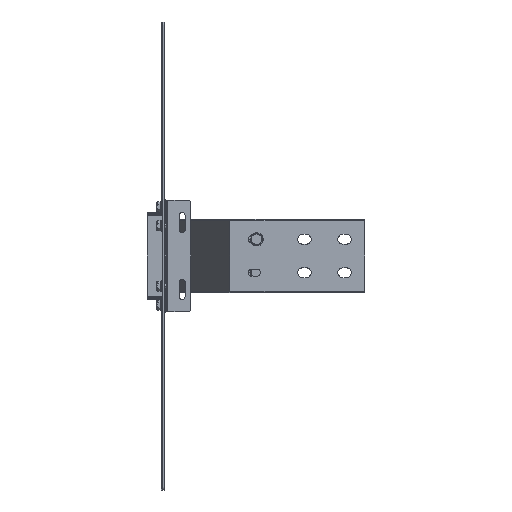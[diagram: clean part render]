
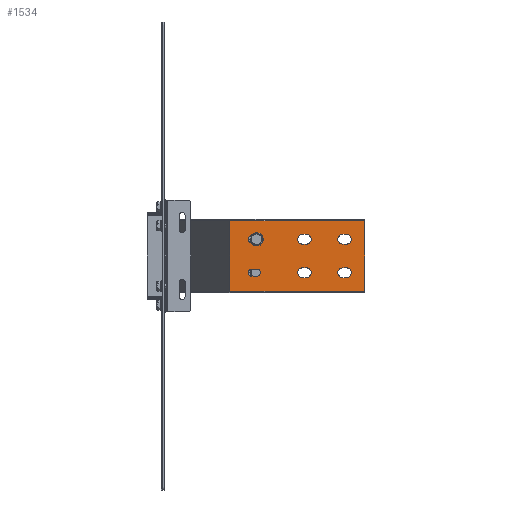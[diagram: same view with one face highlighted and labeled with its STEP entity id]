
A CAD part, front view. The second image highlights one B-rep face of the part: STEP entity #1534.
In plain terms, the highlighted planar face has unit normal (0, -1, 0).
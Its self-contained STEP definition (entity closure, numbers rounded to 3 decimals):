
#1290=AXIS2_PLACEMENT_3D('Circle Axis2P3D',#1288,#1289,$) ;
#1310=AXIS2_PLACEMENT_3D('Plane Axis2P3D',#1307,#1308,#1309) ;
#1348=AXIS2_PLACEMENT_3D('Circle Axis2P3D',#1346,#1347,$) ;
#1366=AXIS2_PLACEMENT_3D('Circle Axis2P3D',#1364,#1365,$) ;
#1382=AXIS2_PLACEMENT_3D('Circle Axis2P3D',#1380,#1381,$) ;
#1400=AXIS2_PLACEMENT_3D('Circle Axis2P3D',#1398,#1399,$) ;
#1416=AXIS2_PLACEMENT_3D('Circle Axis2P3D',#1414,#1415,$) ;
#1443=AXIS2_PLACEMENT_3D('Circle Axis2P3D',#1441,#1442,$) ;
#1457=AXIS2_PLACEMENT_3D('Circle Axis2P3D',#1455,#1456,$) ;
#1468=AXIS2_PLACEMENT_3D('Circle Axis2P3D',#1466,#1467,$) ;
#1484=AXIS2_PLACEMENT_3D('Circle Axis2P3D',#1482,#1483,$) ;
#1502=AXIS2_PLACEMENT_3D('Circle Axis2P3D',#1500,#1501,$) ;
#1518=AXIS2_PLACEMENT_3D('Circle Axis2P3D',#1516,#1517,$) ;
#1254=CARTESIAN_POINT('Vertex',(212.5,-217.625,32.5)) ;
#1257=CARTESIAN_POINT('Line Origine',(210.,-217.625,32.5)) ;
#1261=CARTESIAN_POINT('Vertex',(207.5,-217.625,32.5)) ;
#1288=CARTESIAN_POINT('Axis2P3D Location',(207.5,-217.625,25.)) ;
#1292=CARTESIAN_POINT('Vertex',(207.5,-217.625,17.5)) ;
#1307=CARTESIAN_POINT('Axis2P3D Location',(300.,-217.625,-52.375)) ;
#1312=CARTESIAN_POINT('Line Origine',(199.141,-217.625,-52.375)) ;
#1316=CARTESIAN_POINT('Vertex',(300.,-217.625,-52.375)) ;
#1318=CARTESIAN_POINT('Vertex',(98.282,-217.625,-52.375)) ;
#1321=CARTESIAN_POINT('Line Origine',(300.,-217.625,0.)) ;
#1325=CARTESIAN_POINT('Vertex',(300.,-217.625,52.375)) ;
#1328=CARTESIAN_POINT('Line Origine',(199.141,-217.625,52.375)) ;
#1332=CARTESIAN_POINT('Vertex',(98.282,-217.625,52.375)) ;
#1335=CARTESIAN_POINT('Line Origine',(98.282,-217.625,0.)) ;
#1346=CARTESIAN_POINT('Axis2P3D Location',(212.5,-217.625,25.)) ;
#1350=CARTESIAN_POINT('Vertex',(212.5,-217.625,17.5)) ;
#1353=CARTESIAN_POINT('Line Origine',(210.,-217.625,17.5)) ;
#1364=CARTESIAN_POINT('Axis2P3D Location',(272.5,-217.625,25.)) ;
#1368=CARTESIAN_POINT('Vertex',(272.5,-217.625,17.5)) ;
#1370=CARTESIAN_POINT('Vertex',(272.5,-217.625,32.5)) ;
#1373=CARTESIAN_POINT('Line Origine',(270.,-217.625,17.5)) ;
#1377=CARTESIAN_POINT('Vertex',(267.5,-217.625,17.5)) ;
#1380=CARTESIAN_POINT('Axis2P3D Location',(267.5,-217.625,25.)) ;
#1384=CARTESIAN_POINT('Vertex',(267.5,-217.625,32.5)) ;
#1387=CARTESIAN_POINT('Line Origine',(270.,-217.625,32.5)) ;
#1398=CARTESIAN_POINT('Axis2P3D Location',(207.5,-217.625,-25.)) ;
#1402=CARTESIAN_POINT('Vertex',(207.5,-217.625,-17.5)) ;
#1404=CARTESIAN_POINT('Vertex',(207.5,-217.625,-32.5)) ;
#1407=CARTESIAN_POINT('Line Origine',(210.,-217.625,-17.5)) ;
#1411=CARTESIAN_POINT('Vertex',(212.5,-217.625,-17.5)) ;
#1414=CARTESIAN_POINT('Axis2P3D Location',(212.5,-217.625,-25.)) ;
#1418=CARTESIAN_POINT('Vertex',(212.5,-217.625,-32.5)) ;
#1421=CARTESIAN_POINT('Line Origine',(210.,-217.625,-32.5)) ;
#1432=CARTESIAN_POINT('Line Origine',(270.,-217.625,-17.5)) ;
#1436=CARTESIAN_POINT('Vertex',(272.5,-217.625,-17.5)) ;
#1438=CARTESIAN_POINT('Vertex',(267.5,-217.625,-17.5)) ;
#1441=CARTESIAN_POINT('Axis2P3D Location',(272.5,-217.625,-25.)) ;
#1445=CARTESIAN_POINT('Vertex',(272.5,-217.625,-32.5)) ;
#1448=CARTESIAN_POINT('Line Origine',(270.,-217.625,-32.5)) ;
#1452=CARTESIAN_POINT('Vertex',(267.5,-217.625,-32.5)) ;
#1455=CARTESIAN_POINT('Axis2P3D Location',(267.5,-217.625,-25.)) ;
#1466=CARTESIAN_POINT('Axis2P3D Location',(138.5,-217.625,25.)) ;
#1470=CARTESIAN_POINT('Vertex',(138.5,-217.625,19.5)) ;
#1472=CARTESIAN_POINT('Vertex',(138.5,-217.625,30.5)) ;
#1475=CARTESIAN_POINT('Line Origine',(135.,-217.625,19.5)) ;
#1479=CARTESIAN_POINT('Vertex',(131.5,-217.625,19.5)) ;
#1482=CARTESIAN_POINT('Axis2P3D Location',(131.5,-217.625,25.)) ;
#1486=CARTESIAN_POINT('Vertex',(131.5,-217.625,30.5)) ;
#1489=CARTESIAN_POINT('Line Origine',(135.,-217.625,30.5)) ;
#1500=CARTESIAN_POINT('Axis2P3D Location',(131.5,-217.625,-25.)) ;
#1504=CARTESIAN_POINT('Vertex',(131.5,-217.625,-19.5)) ;
#1506=CARTESIAN_POINT('Vertex',(131.5,-217.625,-30.5)) ;
#1509=CARTESIAN_POINT('Line Origine',(135.,-217.625,-19.5)) ;
#1513=CARTESIAN_POINT('Vertex',(138.5,-217.625,-19.5)) ;
#1516=CARTESIAN_POINT('Axis2P3D Location',(138.5,-217.625,-25.)) ;
#1520=CARTESIAN_POINT('Vertex',(138.5,-217.625,-30.5)) ;
#1523=CARTESIAN_POINT('Line Origine',(135.,-217.625,-30.5)) ;
#1258=DIRECTION('Vector Direction',(1.,0.,0.)) ;
#1289=DIRECTION('Axis2P3D Direction',(0.,-1.,0.)) ;
#1308=DIRECTION('Axis2P3D Direction',(0.,-1.,0.)) ;
#1309=DIRECTION('Axis2P3D XDirection',(0.,0.,1.)) ;
#1313=DIRECTION('Vector Direction',(-1.,0.,0.)) ;
#1322=DIRECTION('Vector Direction',(0.,0.,1.)) ;
#1329=DIRECTION('Vector Direction',(-1.,0.,0.)) ;
#1336=DIRECTION('Vector Direction',(0.,0.,1.)) ;
#1347=DIRECTION('Axis2P3D Direction',(0.,-1.,0.)) ;
#1354=DIRECTION('Vector Direction',(-1.,0.,0.)) ;
#1365=DIRECTION('Axis2P3D Direction',(0.,-1.,0.)) ;
#1374=DIRECTION('Vector Direction',(1.,0.,0.)) ;
#1381=DIRECTION('Axis2P3D Direction',(0.,-1.,0.)) ;
#1388=DIRECTION('Vector Direction',(-1.,0.,0.)) ;
#1399=DIRECTION('Axis2P3D Direction',(0.,-1.,0.)) ;
#1408=DIRECTION('Vector Direction',(-1.,0.,0.)) ;
#1415=DIRECTION('Axis2P3D Direction',(0.,-1.,0.)) ;
#1422=DIRECTION('Vector Direction',(1.,0.,0.)) ;
#1433=DIRECTION('Vector Direction',(1.,0.,0.)) ;
#1442=DIRECTION('Axis2P3D Direction',(0.,-1.,0.)) ;
#1449=DIRECTION('Vector Direction',(-1.,0.,0.)) ;
#1456=DIRECTION('Axis2P3D Direction',(0.,-1.,0.)) ;
#1467=DIRECTION('Axis2P3D Direction',(0.,-1.,0.)) ;
#1476=DIRECTION('Vector Direction',(-1.,0.,0.)) ;
#1483=DIRECTION('Axis2P3D Direction',(0.,-1.,0.)) ;
#1490=DIRECTION('Vector Direction',(1.,0.,0.)) ;
#1501=DIRECTION('Axis2P3D Direction',(0.,-1.,0.)) ;
#1510=DIRECTION('Vector Direction',(-1.,0.,0.)) ;
#1517=DIRECTION('Axis2P3D Direction',(0.,-1.,0.)) ;
#1524=DIRECTION('Vector Direction',(1.,0.,0.)) ;
#1259=VECTOR('Line Direction',#1258,1.) ;
#1314=VECTOR('Line Direction',#1313,1.) ;
#1323=VECTOR('Line Direction',#1322,1.) ;
#1330=VECTOR('Line Direction',#1329,1.) ;
#1337=VECTOR('Line Direction',#1336,1.) ;
#1355=VECTOR('Line Direction',#1354,1.) ;
#1375=VECTOR('Line Direction',#1374,1.) ;
#1389=VECTOR('Line Direction',#1388,1.) ;
#1409=VECTOR('Line Direction',#1408,1.) ;
#1423=VECTOR('Line Direction',#1422,1.) ;
#1434=VECTOR('Line Direction',#1433,1.) ;
#1450=VECTOR('Line Direction',#1449,1.) ;
#1477=VECTOR('Line Direction',#1476,1.) ;
#1491=VECTOR('Line Direction',#1490,1.) ;
#1511=VECTOR('Line Direction',#1510,1.) ;
#1525=VECTOR('Line Direction',#1524,1.) ;
#1341=ORIENTED_EDGE('',*,*,#1320,.F.) ;
#1342=ORIENTED_EDGE('',*,*,#1327,.F.) ;
#1343=ORIENTED_EDGE('',*,*,#1334,.T.) ;
#1344=ORIENTED_EDGE('',*,*,#1339,.F.) ;
#1359=ORIENTED_EDGE('',*,*,#1352,.F.) ;
#1360=ORIENTED_EDGE('',*,*,#1357,.F.) ;
#1361=ORIENTED_EDGE('',*,*,#1294,.F.) ;
#1362=ORIENTED_EDGE('',*,*,#1263,.F.) ;
#1393=ORIENTED_EDGE('',*,*,#1372,.F.) ;
#1394=ORIENTED_EDGE('',*,*,#1379,.F.) ;
#1395=ORIENTED_EDGE('',*,*,#1386,.F.) ;
#1396=ORIENTED_EDGE('',*,*,#1391,.F.) ;
#1427=ORIENTED_EDGE('',*,*,#1406,.F.) ;
#1428=ORIENTED_EDGE('',*,*,#1413,.F.) ;
#1429=ORIENTED_EDGE('',*,*,#1420,.F.) ;
#1430=ORIENTED_EDGE('',*,*,#1425,.F.) ;
#1461=ORIENTED_EDGE('',*,*,#1440,.F.) ;
#1462=ORIENTED_EDGE('',*,*,#1447,.F.) ;
#1463=ORIENTED_EDGE('',*,*,#1454,.F.) ;
#1464=ORIENTED_EDGE('',*,*,#1459,.F.) ;
#1495=ORIENTED_EDGE('',*,*,#1474,.F.) ;
#1496=ORIENTED_EDGE('',*,*,#1481,.F.) ;
#1497=ORIENTED_EDGE('',*,*,#1488,.F.) ;
#1498=ORIENTED_EDGE('',*,*,#1493,.F.) ;
#1529=ORIENTED_EDGE('',*,*,#1508,.F.) ;
#1530=ORIENTED_EDGE('',*,*,#1515,.F.) ;
#1531=ORIENTED_EDGE('',*,*,#1522,.F.) ;
#1532=ORIENTED_EDGE('',*,*,#1527,.F.) ;
#1363=FACE_BOUND('',#1358,.T.) ;
#1397=FACE_BOUND('',#1392,.T.) ;
#1431=FACE_BOUND('',#1426,.T.) ;
#1465=FACE_BOUND('',#1460,.T.) ;
#1499=FACE_BOUND('',#1494,.T.) ;
#1533=FACE_BOUND('',#1528,.T.) ;
#1534=ADVANCED_FACE('N',(#1345,#1363,#1397,#1431,#1465,#1499,#1533),#1311,.T.) ;
#1291=CIRCLE('generated circle',#1290,7.5) ;
#1349=CIRCLE('generated circle',#1348,7.5) ;
#1367=CIRCLE('generated circle',#1366,7.5) ;
#1383=CIRCLE('generated circle',#1382,7.5) ;
#1401=CIRCLE('generated circle',#1400,7.5) ;
#1417=CIRCLE('generated circle',#1416,7.5) ;
#1444=CIRCLE('generated circle',#1443,7.5) ;
#1458=CIRCLE('generated circle',#1457,7.5) ;
#1469=CIRCLE('generated circle',#1468,5.5) ;
#1485=CIRCLE('generated circle',#1484,5.5) ;
#1503=CIRCLE('generated circle',#1502,5.5) ;
#1519=CIRCLE('generated circle',#1518,5.5) ;
#1263=EDGE_CURVE('',#1255,#1262,#1260,.F.) ;
#1294=EDGE_CURVE('',#1262,#1293,#1291,.T.) ;
#1320=EDGE_CURVE('',#1317,#1319,#1315,.T.) ;
#1327=EDGE_CURVE('',#1326,#1317,#1324,.F.) ;
#1334=EDGE_CURVE('',#1326,#1333,#1331,.T.) ;
#1339=EDGE_CURVE('',#1319,#1333,#1338,.T.) ;
#1352=EDGE_CURVE('',#1351,#1255,#1349,.T.) ;
#1357=EDGE_CURVE('',#1293,#1351,#1356,.F.) ;
#1372=EDGE_CURVE('',#1369,#1371,#1367,.T.) ;
#1379=EDGE_CURVE('',#1378,#1369,#1376,.T.) ;
#1386=EDGE_CURVE('',#1385,#1378,#1383,.T.) ;
#1391=EDGE_CURVE('',#1371,#1385,#1390,.T.) ;
#1406=EDGE_CURVE('',#1403,#1405,#1401,.T.) ;
#1413=EDGE_CURVE('',#1412,#1403,#1410,.T.) ;
#1420=EDGE_CURVE('',#1419,#1412,#1417,.T.) ;
#1425=EDGE_CURVE('',#1405,#1419,#1424,.T.) ;
#1440=EDGE_CURVE('',#1437,#1439,#1435,.F.) ;
#1447=EDGE_CURVE('',#1446,#1437,#1444,.T.) ;
#1454=EDGE_CURVE('',#1453,#1446,#1451,.F.) ;
#1459=EDGE_CURVE('',#1439,#1453,#1458,.T.) ;
#1474=EDGE_CURVE('',#1471,#1473,#1469,.T.) ;
#1481=EDGE_CURVE('',#1480,#1471,#1478,.F.) ;
#1488=EDGE_CURVE('',#1487,#1480,#1485,.T.) ;
#1493=EDGE_CURVE('',#1473,#1487,#1492,.F.) ;
#1508=EDGE_CURVE('',#1505,#1507,#1503,.T.) ;
#1515=EDGE_CURVE('',#1514,#1505,#1512,.T.) ;
#1522=EDGE_CURVE('',#1521,#1514,#1519,.T.) ;
#1527=EDGE_CURVE('',#1507,#1521,#1526,.T.) ;
#1340=EDGE_LOOP('',(#1341,#1342,#1343,#1344)) ;
#1358=EDGE_LOOP('',(#1359,#1360,#1361,#1362)) ;
#1392=EDGE_LOOP('',(#1393,#1394,#1395,#1396)) ;
#1426=EDGE_LOOP('',(#1427,#1428,#1429,#1430)) ;
#1460=EDGE_LOOP('',(#1461,#1462,#1463,#1464)) ;
#1494=EDGE_LOOP('',(#1495,#1496,#1497,#1498)) ;
#1528=EDGE_LOOP('',(#1529,#1530,#1531,#1532)) ;
#1345=FACE_OUTER_BOUND('',#1340,.T.) ;
#1260=LINE('Line',#1257,#1259) ;
#1315=LINE('Line',#1312,#1314) ;
#1324=LINE('Line',#1321,#1323) ;
#1331=LINE('Line',#1328,#1330) ;
#1338=LINE('Line',#1335,#1337) ;
#1356=LINE('Line',#1353,#1355) ;
#1376=LINE('Line',#1373,#1375) ;
#1390=LINE('Line',#1387,#1389) ;
#1410=LINE('Line',#1407,#1409) ;
#1424=LINE('Line',#1421,#1423) ;
#1435=LINE('Line',#1432,#1434) ;
#1451=LINE('Line',#1448,#1450) ;
#1478=LINE('Line',#1475,#1477) ;
#1492=LINE('Line',#1489,#1491) ;
#1512=LINE('Line',#1509,#1511) ;
#1526=LINE('Line',#1523,#1525) ;
#1311=PLANE('',#1310) ;
#1255=VERTEX_POINT('',#1254) ;
#1262=VERTEX_POINT('',#1261) ;
#1293=VERTEX_POINT('',#1292) ;
#1317=VERTEX_POINT('',#1316) ;
#1319=VERTEX_POINT('',#1318) ;
#1326=VERTEX_POINT('',#1325) ;
#1333=VERTEX_POINT('',#1332) ;
#1351=VERTEX_POINT('',#1350) ;
#1369=VERTEX_POINT('',#1368) ;
#1371=VERTEX_POINT('',#1370) ;
#1378=VERTEX_POINT('',#1377) ;
#1385=VERTEX_POINT('',#1384) ;
#1403=VERTEX_POINT('',#1402) ;
#1405=VERTEX_POINT('',#1404) ;
#1412=VERTEX_POINT('',#1411) ;
#1419=VERTEX_POINT('',#1418) ;
#1437=VERTEX_POINT('',#1436) ;
#1439=VERTEX_POINT('',#1438) ;
#1446=VERTEX_POINT('',#1445) ;
#1453=VERTEX_POINT('',#1452) ;
#1471=VERTEX_POINT('',#1470) ;
#1473=VERTEX_POINT('',#1472) ;
#1480=VERTEX_POINT('',#1479) ;
#1487=VERTEX_POINT('',#1486) ;
#1505=VERTEX_POINT('',#1504) ;
#1507=VERTEX_POINT('',#1506) ;
#1514=VERTEX_POINT('',#1513) ;
#1521=VERTEX_POINT('',#1520) ;
